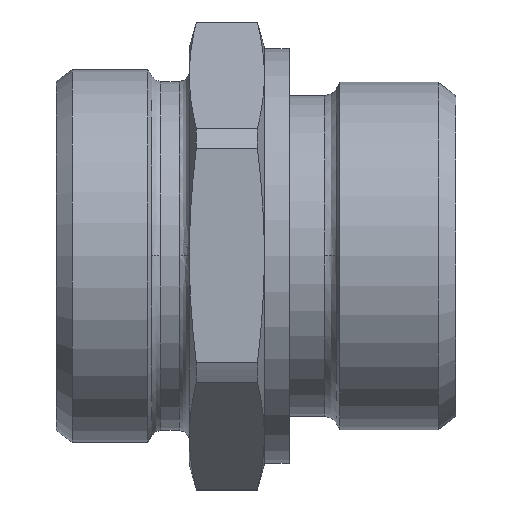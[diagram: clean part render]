
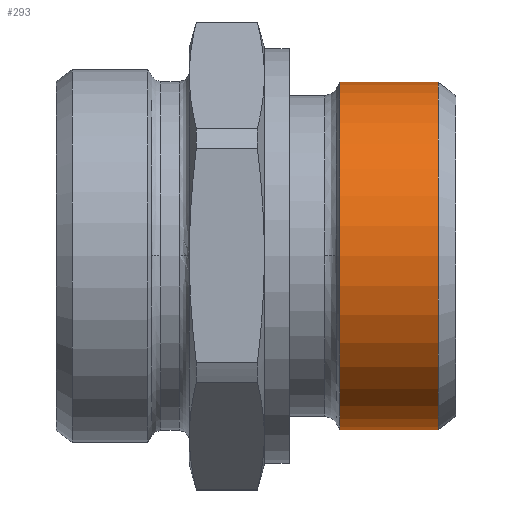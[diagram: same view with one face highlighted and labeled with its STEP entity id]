
A CAD part, top view. The second image highlights one B-rep face of the part: STEP entity #293.
In plain terms, the highlighted cylindrical face has radius 20.865 mm (diameter 41.73 mm), a partial arc.
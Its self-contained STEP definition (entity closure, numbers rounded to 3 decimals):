
#225=CARTESIAN_POINT('',(0.,20.865,-25.357));
#226=VERTEX_POINT('',#225);
#235=CARTESIAN_POINT('',(0.,-20.865,-25.357));
#236=VERTEX_POINT('',#235);
#237=CARTESIAN_POINT('',(0.,0.,-25.357));
#238=DIRECTION('',(0.0,0.0,-1.0));
#239=DIRECTION('',(0.0,1.0,0.0));
#240=AXIS2_PLACEMENT_3D('',#237,#238,#239);
#241=CIRCLE('',#240,20.865);
#242=EDGE_CURVE('',#226,#236,#241,.T.);
#262=CARTESIAN_POINT('',(0.,0.,-19.47));
#263=DIRECTION('',(0.,0.,-1.0));
#264=DIRECTION('',(0.0,1.0,0.0));
#265=AXIS2_PLACEMENT_3D('',#262,#263,#264);
#266=CYLINDRICAL_SURFACE('',#265,20.865);
#267=CARTESIAN_POINT('',(0.,20.865,-13.582));
#268=VERTEX_POINT('',#267);
#269=CARTESIAN_POINT('',(0.,20.865,-13.582));
#270=DIRECTION('',(0.0,0.0,-1.0));
#271=VECTOR('',#270,11.774);
#272=LINE('',#269,#271);
#273=EDGE_CURVE('',#268,#226,#272,.T.);
#274=ORIENTED_EDGE('',*,*,#273,.F.);
#275=CARTESIAN_POINT('',(0.,-20.865,-13.582));
#276=VERTEX_POINT('',#275);
#277=CARTESIAN_POINT('',(0.,0.,-13.582));
#278=DIRECTION('',(0.0,0.0,-1.0));
#279=DIRECTION('',(0.0,1.0,0.0));
#280=AXIS2_PLACEMENT_3D('',#277,#278,#279);
#281=CIRCLE('',#280,20.865);
#282=EDGE_CURVE('',#268,#276,#281,.T.);
#283=ORIENTED_EDGE('',*,*,#282,.T.);
#284=CARTESIAN_POINT('',(0.,-20.865,-25.357));
#285=DIRECTION('',(0.0,0.0,1.0));
#286=VECTOR('',#285,11.774);
#287=LINE('',#284,#286);
#288=EDGE_CURVE('',#236,#276,#287,.T.);
#289=ORIENTED_EDGE('',*,*,#288,.F.);
#290=ORIENTED_EDGE('',*,*,#242,.F.);
#291=EDGE_LOOP('',(#274,#283,#289,#290));
#292=FACE_OUTER_BOUND('',#291,.T.);
#293=ADVANCED_FACE('',(#292),#266,.T.);
